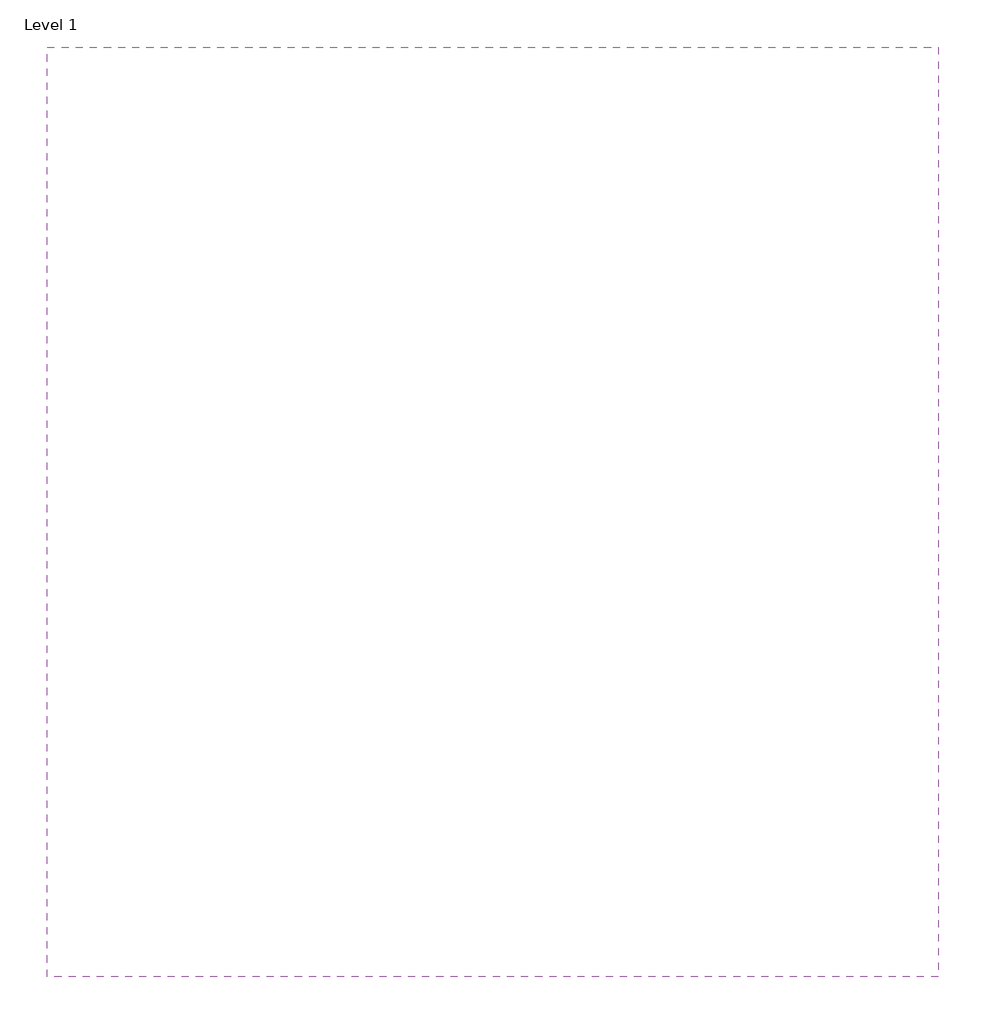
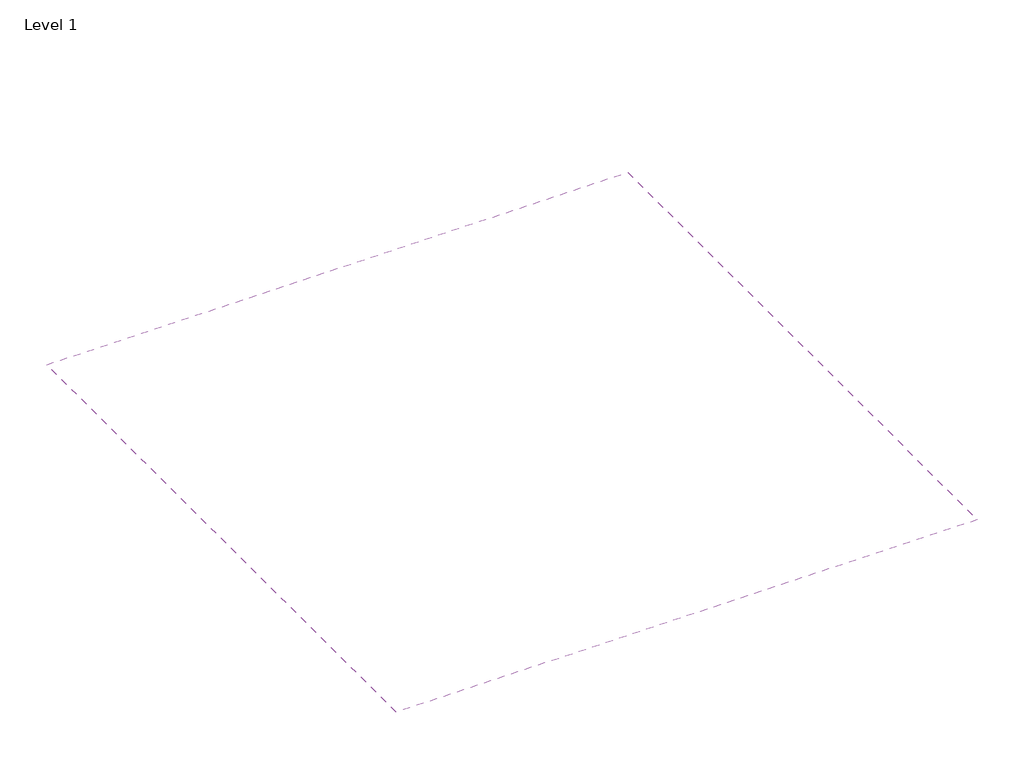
# One storey: 1 covering.
"""IFC4 building model written with IfcOpenShell, lengths in millimetres."""

from ifc_helpers import new_model, si_unit, frame, origin, place, context, project, spatial, polyline, outline, extrude, element, save

model = new_model("IFC4")

# Units and contexts
model_context = context("Model", 3, world=origin())
ifc_project = project(units=[si_unit("LENGTHUNIT", "METRE", prefix="MILLI")], contexts=[model_context])

# Site, building, storey
site = spatial("IfcSite", under=ifc_project)
building = spatial("IfcBuilding", under=site)
storey = spatial("IfcBuildingStorey", under=building, Name="Level 1", Elevation=0.0)

# Covering
placement = place(None, origin())
element("IfcCovering", 1, ObjectType="Placo PPM 15", at=placement, inside=storey, context=model_context, shape_type="SweptSolid", body=[
    extrude(outline(polyline([(-5115.2715037, -28547.8229751), (-6055.2715037, -28547.8229751), (-6055.2715037, -27567.8229751), (-5115.2715037, -27567.8229751), (-5115.2715037, -28547.8229751)])), frame((0.0, 0.0, 2600.0), z_axis=(0.0, 0.0, 1.0), x_axis=(1.0, 0.0, 0.0)), (0.0, 0.0, 1.0), 215.0),
])

save(model, "model.ifc")
